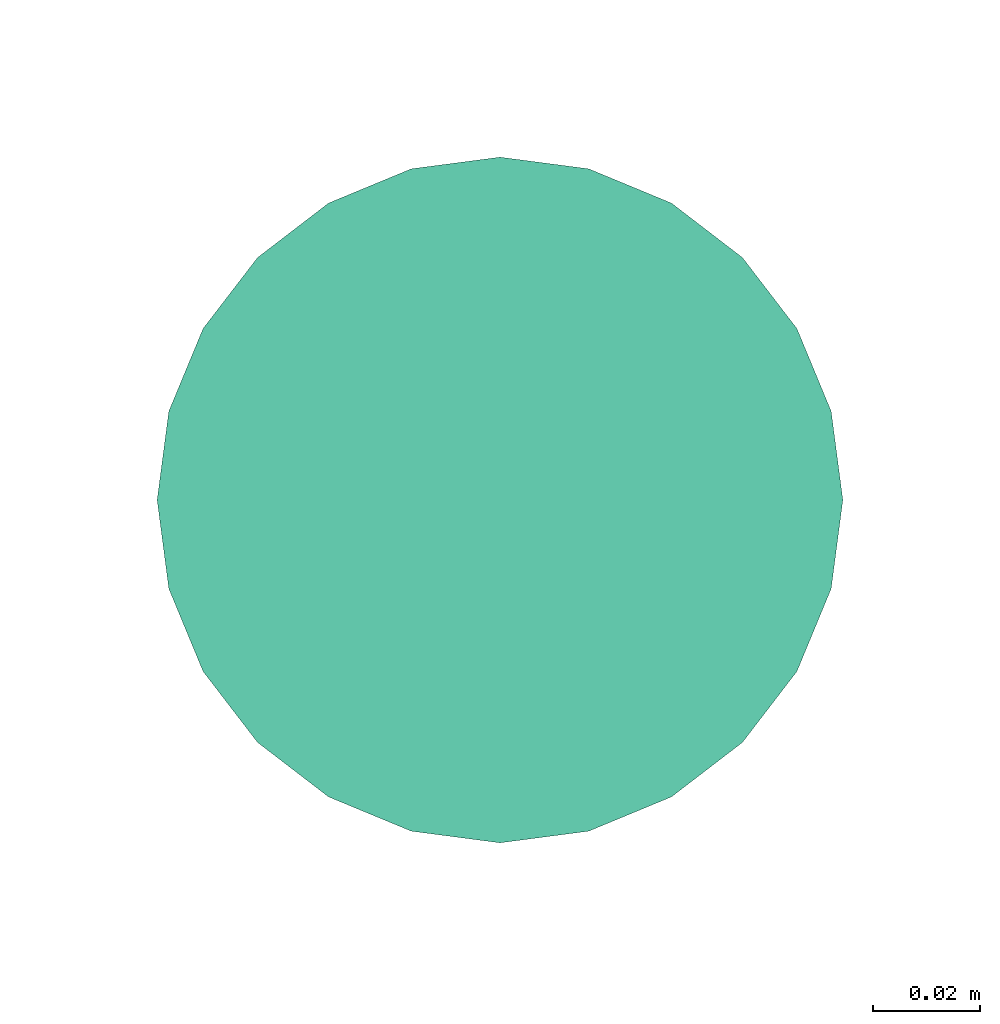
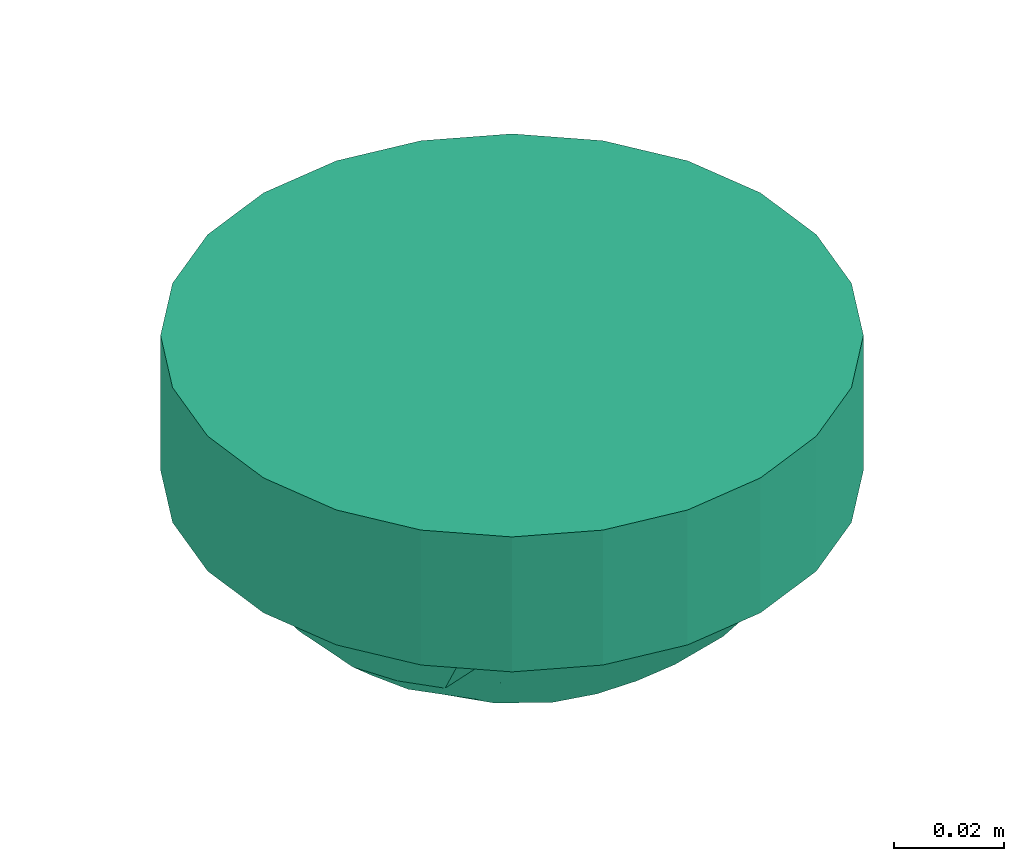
# One storey, part 77 of 153: 1 flow terminal.
"""IFC2X3 building model written with IfcOpenShell, lengths in metres."""

from ifc_helpers import new_model, entity, si_unit, converted_unit, derived_unit, direction, frame, origin, place, context, subcontext, project, spatial, faceted_brep, source, transform, mapped, type_object, type_shapes, element, save


model = new_model("IFC2X3")

# Units and contexts
model_context = context("Model", 3, precision=1e-05, world=origin(), true_north=direction((6.12303176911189e-17, 1.0)))
body_context = subcontext(model_context, "Body", "Model", "MODEL_VIEW")
ifc_project = project(units=[si_unit("LENGTHUNIT", "METRE"), si_unit("AREAUNIT", "SQUARE_METRE"), si_unit("VOLUMEUNIT", "CUBIC_METRE"), converted_unit("PLANEANGLEUNIT", "DEGREE", entity("IfcRatioMeasure", 0.0174532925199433), si_unit("PLANEANGLEUNIT", "RADIAN"), dimensions=[0, 0, 0, 0, 0, 0, 0]), si_unit("MASSUNIT", "GRAM", prefix="KILO"), derived_unit("MASSDENSITYUNIT", [(si_unit("MASSUNIT", "GRAM", prefix="KILO"), 1), (si_unit("LENGTHUNIT", "METRE"), -3)]), si_unit("TIMEUNIT", "SECOND"), si_unit("FREQUENCYUNIT", "HERTZ"), si_unit("THERMODYNAMICTEMPERATUREUNIT", "DEGREE_CELSIUS"), derived_unit("THERMALTRANSMITTANCEUNIT", [(si_unit("MASSUNIT", "GRAM", prefix="KILO"), 1), (si_unit("THERMODYNAMICTEMPERATUREUNIT", "KELVIN"), -1), (si_unit("TIMEUNIT", "SECOND"), -3)]), derived_unit("VOLUMETRICFLOWRATEUNIT", [(si_unit("LENGTHUNIT", "METRE"), 3), (si_unit("TIMEUNIT", "SECOND"), -1)]), si_unit("ELECTRICCURRENTUNIT", "AMPERE"), si_unit("ELECTRICVOLTAGEUNIT", "VOLT"), si_unit("POWERUNIT", "WATT"), si_unit("FORCEUNIT", "NEWTON"), si_unit("ILLUMINANCEUNIT", "LUX"), si_unit("LUMINOUSFLUXUNIT", "LUMEN"), si_unit("LUMINOUSINTENSITYUNIT", "CANDELA"), derived_unit("USERDEFINED", [(si_unit("MASSUNIT", "GRAM", prefix="KILO"), -1), (si_unit("LENGTHUNIT", "METRE"), -2), (si_unit("TIMEUNIT", "SECOND"), 3), (si_unit("LUMINOUSFLUXUNIT", "LUMEN"), 1)]), derived_unit("LINEARVELOCITYUNIT", [(si_unit("LENGTHUNIT", "METRE"), 1), (si_unit("TIMEUNIT", "SECOND"), -1)]), si_unit("PRESSUREUNIT", "PASCAL"), derived_unit("USERDEFINED", [(si_unit("LENGTHUNIT", "METRE"), -2), (si_unit("MASSUNIT", "GRAM", prefix="KILO"), 1), (si_unit("TIMEUNIT", "SECOND"), -2)])], contexts=[model_context])

# Site, building, storey
site_placement = place(None, origin())
site = spatial("IfcSite", under=ifc_project, at=site_placement, Name="Default", CompositionType="ELEMENT")
building_placement = place(site_placement, origin())
building = spatial("IfcBuilding", under=site, at=building_placement, CompositionType="ELEMENT")
storey_placement = place(building_placement, frame((0.0, 0.0, -4.62)))
storey = spatial("IfcBuildingStorey", under=building, at=storey_placement, Name="S02", CompositionType="ELEMENT", Elevation=-4.62)

# Flow terminal
light_fixture_type = type_object("IfcLightFixtureType", Name="Détecteur 360°", PredefinedType="NOTDEFINED")
shared_shape = source(origin(), body_context, "Body", "Brep", [
    faceted_brep([(0.0, -0.0397165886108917, 0.0531256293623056), (0.0, -0.034524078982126, 0.0563702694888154), (-0.0175153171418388, -0.0435914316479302, 0.0478512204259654), (-0.0194029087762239, -0.000878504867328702, 0.0644483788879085), (0.0, 0.0, 0.0669999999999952), (0.0, 0.00603476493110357, 0.0659648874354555), (-0.0174057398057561, -0.0159851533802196, 0.0630502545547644), (-0.0366619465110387, -0.0127227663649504, 0.0549213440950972), (-0.026998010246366, -0.0195753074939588, 0.0584711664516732), (-0.0202403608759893, -0.0335607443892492, 0.054639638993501), (-0.0359767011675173, -0.0348394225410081, 0.0444249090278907), (-0.0276843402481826, -0.0401006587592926, 0.0459804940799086), (-0.0133088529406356, -0.0517577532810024, 0.0400582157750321), (-0.0172617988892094, -0.0486391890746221, 0.042533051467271), (-0.0256912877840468, -0.0533485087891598, 0.0299999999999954), (-0.0462941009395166, -0.0369183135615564, 0.0299999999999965), (0.0, -0.0241390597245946, 0.0628595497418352), (-0.0186245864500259, -0.0267295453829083, 0.0589100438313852), (-0.0139070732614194, -0.0374370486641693, 0.0540817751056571), (0.0, 0.0449090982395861, 0.049880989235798), (-0.0172618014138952, 0.0486391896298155, 0.0425330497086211), (0.0, 0.0397165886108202, 0.0531256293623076), (-0.0186245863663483, 0.0267295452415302, 0.0589100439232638), (-0.0202403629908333, 0.0335607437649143, 0.054639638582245), (-0.0353547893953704, 0.0284533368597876, 0.0494330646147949), (0.0, 0.0120695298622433, 0.0649297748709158), (-0.0249385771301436, 0.0204731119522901, 0.0590841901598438), (-0.0191783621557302, 0.0150189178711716, 0.062775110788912), (-0.0465404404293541, -0.0196510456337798, 0.0438984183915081), (-0.052010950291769, -0.0250471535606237, 0.029999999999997), (-0.0453471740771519, -0.0286501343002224, 0.0397747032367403), (-0.0365036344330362, -0.0226255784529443, 0.0516441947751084), (-0.0175153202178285, 0.0435914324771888, 0.0478512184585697), (-0.0359926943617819, 0.0451334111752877, 0.0299999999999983), (-0.0276843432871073, 0.0401006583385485, 0.0459804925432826), (-0.00849704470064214, -0.0572729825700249, 0.0299999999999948), (0.0, -0.0592123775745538, 0.0299999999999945), (0.0, -0.0545512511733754, 0.0364787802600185), (0.0, -0.049890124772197, 0.0429575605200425), (-0.0169940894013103, -0.055333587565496, 0.0299999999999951), (-0.0359767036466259, 0.0348394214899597, 0.0444249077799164), (-0.025691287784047, 0.0533485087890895, 0.0299999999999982), (-0.0308419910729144, 0.0492409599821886, 0.0299999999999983), (-0.0130265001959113, 0.0514867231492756, 0.040526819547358), (-0.0169940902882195, 0.0553335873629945, 0.029999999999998), (0.0, 0.0498901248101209, 0.0429575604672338), (-0.0353547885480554, -0.0284533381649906, 0.0494330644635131), (0.0, 0.0181042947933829, 0.0638946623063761), (-0.0473669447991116, -0.00128092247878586, 0.0474310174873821), (-0.0485435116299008, -0.00908961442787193, 0.0452357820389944), (-0.0366597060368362, -0.0032867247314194, 0.0563153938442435), (-0.0226425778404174, -0.0107553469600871, 0.0624973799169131), (0.0, -0.00603476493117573, 0.0659648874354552), (0.0, 0.0293315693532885, 0.0596149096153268), (-0.0139070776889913, 0.0374370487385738, 0.0540817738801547), (-0.0449600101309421, 0.018422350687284, 0.0461366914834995), (-0.0453471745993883, 0.0286501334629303, 0.0397747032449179), (-0.0476906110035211, 0.00670602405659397, 0.0466053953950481), (-0.0577277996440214, 0.0131759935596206, 0.0299999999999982), (-0.0577277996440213, 0.00658799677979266, 0.029999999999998), (-0.0577277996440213, 0.0, 0.0299999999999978), (0.0, -0.0449090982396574, 0.0498809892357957), (-0.0308419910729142, -0.049240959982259, 0.0299999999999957), (-0.0359926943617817, -0.0451334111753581, 0.029999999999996), (0.0, 0.0345240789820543, 0.0563702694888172), (-0.0411433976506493, 0.0410258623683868, 0.0299999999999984), (-0.0462941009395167, 0.0369183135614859, 0.0299999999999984), (-0.0491525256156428, -0.03098273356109, 0.0299999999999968), (-0.0577277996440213, -0.0131759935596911, 0.0299999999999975), (0.0, -0.018104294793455, 0.0638946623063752), (-0.0377433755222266, 0.0044838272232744, 0.0554913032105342), (-0.0577277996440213, -0.00658799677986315, 0.0299999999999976), (-0.0385149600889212, 0.0124844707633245, 0.0536578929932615), (-0.0491525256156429, 0.0309827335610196, 0.0299999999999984), (-0.0548693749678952, 0.0191115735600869, 0.0299999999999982), (0.0, 0.0241390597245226, 0.0628595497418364), (-0.014625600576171, 0.0100436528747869, 0.0649170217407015), (-0.0271766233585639, 0.00920278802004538, 0.0609170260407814), (0.0, -0.0120695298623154, 0.0649297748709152), (-0.0520109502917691, 0.0250471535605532, 0.0299999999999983), (-0.0411433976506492, -0.0410258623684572, 0.0299999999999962), (-0.0548693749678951, -0.0191115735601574, 0.0299999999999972), (0.0, -0.0293315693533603, 0.0596149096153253), (0.0, 0.0545512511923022, 0.0364787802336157), (0.0, 0.0592123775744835, 0.0299999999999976), (-0.00849704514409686, 0.057272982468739, 0.0299999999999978), (-0.0127455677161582, 0.0563032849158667, 0.0299999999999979), (-0.0213426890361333, 0.054341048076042, 0.0299999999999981), (0.0175153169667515, 0.0435914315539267, 0.0478512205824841), (0.0194029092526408, 0.000878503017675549, 0.0644483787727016), (0.017405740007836, 0.0159851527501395, 0.0630502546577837), (0.0366619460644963, 0.012722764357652, 0.0549213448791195), (0.0269980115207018, 0.0195753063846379, 0.0584711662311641), (0.0202403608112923, 0.0335607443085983, 0.0546396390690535), (0.0359767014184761, 0.0348394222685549, 0.0444249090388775), (0.0276843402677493, 0.0401006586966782, 0.0459804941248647), (0.0133088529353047, 0.0517577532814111, 0.0400582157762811), (0.0172617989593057, 0.0486391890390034, 0.0425330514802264), (0.0256912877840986, 0.0533485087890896, 0.0299999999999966), (0.0462941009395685, 0.0369183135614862, 0.0299999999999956), (0.00849704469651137, 0.0572729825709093, 0.0299999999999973), (0.0169940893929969, 0.0553335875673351, 0.029999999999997), (0.0172617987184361, -0.0486391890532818, 0.0425330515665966), (0.025691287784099, -0.0533485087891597, 0.0299999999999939), (0.0308419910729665, -0.0492409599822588, 0.0299999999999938), (0.0175153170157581, -0.0435914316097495, 0.0478512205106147), (0.0186245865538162, -0.0267295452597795, 0.0589100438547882), (0.0202403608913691, -0.03356074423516, 0.0546396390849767), (0.0353547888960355, -0.0284533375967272, 0.0494330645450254), (0.0249385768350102, -0.0204731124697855, 0.0590841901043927), (0.0191783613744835, -0.0150189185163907, 0.062775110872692), (0.0465404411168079, 0.0196510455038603, 0.0438984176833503), (0.0577277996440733, 0.0131759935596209, 0.0299999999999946), (0.0548693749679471, 0.0191115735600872, 0.0299999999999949), (0.0520109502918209, 0.0250471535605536, 0.0299999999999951), (0.0365036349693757, 0.0226255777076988, 0.0516441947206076), (0.0186245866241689, 0.0267295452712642, 0.0589100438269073), (0.0359926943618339, -0.0451334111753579, 0.0299999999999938), (0.0276843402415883, -0.0401006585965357, 0.0459804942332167), (0.0139070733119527, 0.0374370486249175, 0.0540817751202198), (0.0359767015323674, -0.0348394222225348, 0.044424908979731), (0.0226425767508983, 0.0107553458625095, 0.0624973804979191), (0.0169940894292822, -0.0553335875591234, 0.0299999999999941), (0.0130264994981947, -0.0514867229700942, 0.0405268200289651), (0.0453471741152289, 0.0286501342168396, 0.039774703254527), (0.0353547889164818, 0.0284533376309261, 0.0494330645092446), (0.0473669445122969, 0.00128092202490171, 0.0474310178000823), (0.0485435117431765, 0.00908961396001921, 0.0452357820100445), (0.0366597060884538, 0.00328672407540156, 0.0563153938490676), (0.0139070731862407, -0.0374370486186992, 0.0540817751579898), (0.0449600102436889, -0.018422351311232, 0.0461366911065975), (0.0453471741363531, -0.0286501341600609, 0.039774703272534), (0.0476906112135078, -0.00670602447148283, 0.046605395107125), (0.0577277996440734, -0.0131759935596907, 0.0299999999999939), (0.0577277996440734, -0.00658799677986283, 0.0299999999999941), (0.0577277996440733, 0.0, 0.0299999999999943), (0.0308419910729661, 0.0492409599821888, 0.0299999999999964), (0.0359926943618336, 0.0451334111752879, 0.0299999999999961), (0.0411433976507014, -0.041025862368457, 0.0299999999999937), (0.0462941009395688, -0.0369183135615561, 0.0299999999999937), (0.0491525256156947, 0.0309827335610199, 0.0299999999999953), (0.037743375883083, -0.00448382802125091, 0.0554913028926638), (0.0577277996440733, 0.00658799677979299, 0.0299999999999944), (0.0385149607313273, -0.0124844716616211, 0.0536578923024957), (0.049152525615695, -0.0309827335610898, 0.0299999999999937), (0.0548693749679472, -0.0191115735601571, 0.0299999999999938), (0.0146256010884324, -0.0100436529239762, 0.0649170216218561), (0.0271766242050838, -0.00920278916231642, 0.0609170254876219), (0.0520109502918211, -0.0250471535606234, 0.0299999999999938), (0.041143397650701, 0.0410258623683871, 0.0299999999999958), (0.00849704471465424, -0.0572729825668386, 0.0299999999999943), (0.0127455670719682, -0.056303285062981, 0.0299999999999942), (0.0213426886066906, -0.0543410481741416, 0.029999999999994), (0.0, 0.0, 0.0299999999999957)], [[[0, 1, 2]], [[3, 4, 5]], [[6, 7, 8]], [[9, 10, 11]], [[12, 13, 14]], [[10, 15, 11]], [[9, 16, 17]], [[18, 9, 11]], [[19, 20, 21]], [[22, 23, 24]], [[25, 26, 27]], [[28, 29, 30]], [[8, 31, 17]], [[32, 33, 34]], [[35, 36, 37, 38, 39]], [[23, 40, 24]], [[20, 41, 42]], [[19, 43, 20]], [[44, 43, 45]], [[20, 32, 21]], [[30, 10, 46]], [[22, 26, 47]], [[48, 49, 50]], [[3, 51, 52]], [[53, 54, 23]], [[55, 24, 56]], [[57, 58, 59, 60]], [[13, 61, 0]], [[13, 0, 2]], [[2, 62, 13]], [[18, 2, 1]], [[2, 11, 63]], [[32, 64, 21]], [[32, 42, 33]], [[34, 33, 65, 66]], [[20, 42, 32]], [[54, 32, 34]], [[28, 30, 31]], [[10, 67, 15]], [[49, 68, 28]], [[8, 17, 69]], [[7, 6, 51]], [[28, 31, 7]], [[57, 48, 70]], [[58, 57, 55]], [[48, 71, 49]], [[70, 48, 50]], [[3, 50, 51]], [[55, 26, 24]], [[72, 57, 70]], [[26, 55, 72]], [[56, 40, 73]], [[56, 74, 55]], [[47, 75, 22]], [[52, 4, 3]], [[7, 50, 49]], [[5, 76, 3]], [[70, 3, 77]], [[51, 78, 52]], [[26, 25, 47]], [[76, 25, 27]], [[23, 22, 75]], [[26, 22, 24]], [[53, 64, 54]], [[23, 34, 40]], [[66, 40, 34]], [[40, 66, 73]], [[56, 73, 79, 74]], [[72, 27, 26]], [[40, 56, 24]], [[23, 75, 53]], [[69, 17, 16]], [[78, 6, 69]], [[46, 10, 9]], [[46, 9, 17]], [[50, 7, 51]], [[30, 29, 67]], [[80, 63, 11, 15]], [[28, 68, 81, 29]], [[10, 30, 67]], [[30, 46, 31]], [[82, 18, 1]], [[82, 16, 9]], [[28, 7, 49]], [[12, 39, 38]], [[61, 13, 12]], [[83, 84, 85, 86, 44, 45]], [[43, 41, 20]], [[44, 87, 41, 43]], [[32, 54, 64]], [[23, 54, 34]], [[9, 18, 82]], [[2, 18, 11]], [[39, 12, 14]], [[38, 61, 12]], [[62, 2, 63]], [[62, 14, 13]], [[17, 31, 46]], [[7, 31, 8]], [[48, 60, 71]], [[71, 68, 49]], [[60, 48, 57]], [[3, 70, 50]], [[72, 70, 77]], [[72, 77, 27]], [[55, 57, 72]], [[74, 58, 55]], [[76, 27, 77]], [[3, 76, 77]], [[25, 76, 5]], [[69, 6, 8]], [[78, 51, 6]], [[45, 43, 19]], [[21, 64, 88]], [[89, 4, 52]], [[90, 91, 92]], [[93, 94, 95]], [[96, 97, 98]], [[94, 99, 95]], [[100, 84, 83, 45, 101]], [[102, 103, 104]], [[102, 105, 0]], [[106, 107, 108]], [[78, 109, 110]], [[111, 112, 113, 114]], [[92, 115, 116]], [[105, 117, 118]], [[119, 93, 95]], [[107, 120, 108]], [[89, 121, 5]], [[122, 123, 38]], [[61, 123, 102]], [[93, 75, 116]], [[124, 94, 125]], [[106, 109, 69]], [[126, 127, 128]], [[61, 102, 0]], [[82, 129, 107]], [[130, 108, 131]], [[132, 133, 134, 135]], [[97, 19, 21]], [[97, 21, 88]], [[88, 136, 97]], [[119, 88, 64]], [[88, 95, 137]], [[105, 1, 0]], [[105, 104, 117]], [[118, 117, 138, 139]], [[102, 104, 105]], [[129, 105, 118]], [[111, 124, 115]], [[94, 140, 99]], [[127, 112, 111]], [[92, 116, 47]], [[91, 90, 121]], [[111, 115, 91]], [[132, 126, 141]], [[133, 132, 130]], [[126, 142, 127]], [[141, 126, 128]], [[89, 128, 121]], [[130, 109, 108]], [[143, 132, 141]], [[109, 130, 143]], [[131, 120, 144]], [[131, 145, 130]], [[69, 16, 106]], [[5, 4, 89]], [[91, 128, 127]], [[52, 146, 89]], [[141, 89, 147]], [[121, 25, 5]], [[109, 78, 69]], [[146, 78, 110]], [[107, 106, 16]], [[109, 106, 108]], [[82, 1, 129]], [[107, 118, 120]], [[139, 120, 118]], [[120, 139, 144]], [[131, 144, 148, 145]], [[143, 110, 109]], [[120, 131, 108]], [[107, 16, 82]], [[47, 116, 75]], [[25, 90, 47]], [[125, 94, 93]], [[125, 93, 116]], [[128, 91, 121]], [[124, 114, 140]], [[149, 137, 95, 99]], [[111, 114, 124]], [[94, 124, 140]], [[124, 125, 115]], [[53, 119, 64]], [[53, 75, 93]], [[111, 91, 127]], [[96, 101, 45]], [[19, 97, 96]], [[37, 36, 150, 151, 122, 38]], [[123, 103, 102]], [[122, 152, 103, 123]], [[105, 129, 1]], [[107, 129, 118]], [[93, 119, 53]], [[88, 119, 95]], [[101, 96, 98]], [[45, 19, 96]], [[136, 88, 137]], [[136, 98, 97]], [[116, 115, 125]], [[91, 115, 92]], [[126, 135, 142]], [[142, 112, 127]], [[135, 126, 132]], [[89, 141, 128]], [[143, 141, 147]], [[143, 147, 110]], [[130, 132, 143]], [[145, 133, 130]], [[146, 110, 147]], [[89, 146, 147]], [[78, 146, 52]], [[47, 90, 92]], [[25, 121, 90]], [[38, 123, 61]], [[153, 66, 65]], [[153, 65, 33]], [[153, 33, 42]], [[153, 42, 41]], [[153, 41, 87]], [[153, 73, 66]], [[153, 79, 73]], [[153, 74, 79]], [[153, 58, 74]], [[153, 87, 44]], [[153, 44, 86]], [[153, 86, 85]], [[153, 85, 84]], [[153, 84, 100]], [[153, 59, 58]], [[153, 60, 59]], [[153, 71, 60]], [[153, 68, 71]], [[153, 81, 68]], [[153, 29, 81]], [[153, 67, 29]], [[153, 15, 67]], [[153, 80, 15]], [[153, 63, 80]], [[153, 62, 63]], [[153, 14, 62]], [[153, 39, 14]], [[153, 35, 39]], [[153, 36, 35]], [[153, 100, 101]], [[153, 101, 98]], [[153, 98, 136]], [[153, 136, 137]], [[153, 137, 149]], [[153, 149, 99]], [[153, 99, 140]], [[153, 140, 114]], [[153, 114, 113]], [[153, 113, 112]], [[153, 112, 142]], [[153, 150, 36]], [[153, 151, 150]], [[153, 122, 151]], [[153, 152, 122]], [[153, 103, 152]], [[153, 104, 103]], [[153, 117, 104]], [[153, 138, 117]], [[153, 139, 138]], [[153, 144, 139]], [[153, 148, 144]], [[153, 145, 148]], [[153, 133, 145]], [[153, 142, 135]], [[153, 135, 134]], [[153, 134, 133]]]),
    faceted_brep([(0.0165644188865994, -0.0618192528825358, 0.029999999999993), (0.0320000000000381, -0.0554256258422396, 0.0299999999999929), (0.0452548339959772, -0.0452548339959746, 0.0299999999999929), (0.0554256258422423, -0.0320000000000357, 0.029999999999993), (0.0618192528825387, -0.016564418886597, 0.0299999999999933), (0.0640000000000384, 0.0, 0.0299999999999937), (0.0618192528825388, 0.016564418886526, 0.0299999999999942), (0.0554256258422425, 0.0319999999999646, 0.0299999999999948), (0.0452548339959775, 0.0452548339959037, 0.0299999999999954), (0.0320000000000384, 0.0554256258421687, 0.0299999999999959), (0.0165644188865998, 0.061819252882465, 0.0299999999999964), (0.0, 0.0639999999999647, 0.0299999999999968), (-0.0165644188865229, 0.061819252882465, 0.0299999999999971), (-0.0319999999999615, 0.0554256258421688, 0.0299999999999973), (-0.0452548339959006, 0.0452548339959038, 0.0299999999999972), (-0.0554256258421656, 0.0319999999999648, 0.0299999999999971), (-0.0618192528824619, 0.0165644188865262, 0.0299999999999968), (-0.0639999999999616, 0.0, 0.0299999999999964), (-0.061819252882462, -0.0165644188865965, 0.0299999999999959), (-0.0554256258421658, -0.0320000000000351, 0.0299999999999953), (-0.0452548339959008, -0.0452548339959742, 0.0299999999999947), (-0.0319999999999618, -0.0554256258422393, 0.0299999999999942), (-0.0165644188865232, -0.0618192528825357, 0.0299999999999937), (0.0, -0.0640000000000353, 0.0299999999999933), (0.0165644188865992, 0.0618192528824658, 0.0), (0.0320000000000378, 0.0554256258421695, 0.0), (0.0452548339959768, 0.0452548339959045, 0.0), (0.0554256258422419, 0.0319999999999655, 0.0), (0.0618192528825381, 0.0165644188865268, 0.0), (0.0640000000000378, 0.0, 0.0), (0.061819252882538, -0.0165644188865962, 0.0), (0.0554256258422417, -0.0320000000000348, 0.0), (0.0452548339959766, -0.0452548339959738, 0.0), (0.0320000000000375, -0.0554256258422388, 0.0), (0.0165644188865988, -0.061819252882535, 0.0), (0.0, -0.0640000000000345, 0.0), (-0.0165644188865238, -0.0618192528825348, 0.0), (-0.0319999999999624, -0.0554256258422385, 0.0), (-0.0452548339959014, -0.0452548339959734, 0.0), (-0.0554256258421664, -0.0320000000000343, 0.0), (-0.0618192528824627, -0.0165644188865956, 0.0), (-0.0639999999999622, 0.0, 0.0), (-0.0618192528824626, 0.016564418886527, 0.0), (-0.0554256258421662, 0.0319999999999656, 0.0), (-0.0452548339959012, 0.0452548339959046, 0.0), (-0.0319999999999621, 0.0554256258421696, 0.0), (-0.0165644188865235, 0.0618192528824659, 0.0), (0.0, 0.0639999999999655, 0.0)], [[[0, 1, 2, 3, 4, 5, 6, 7, 8, 9, 10, 11, 12, 13, 14, 15, 16, 17, 18, 19, 20, 21, 22, 23]], [[24, 25, 26, 27, 28, 29, 30, 31, 32, 33, 34, 35, 36, 37, 38, 39, 40, 41, 42, 43, 44, 45, 46, 47]], [[40, 18, 17, 41]], [[39, 19, 18, 40]], [[21, 20, 38, 37]], [[39, 38, 20, 19]], [[22, 21, 37, 36]], [[23, 22, 36, 35]], [[34, 0, 23, 35]], [[33, 1, 0, 34]], [[3, 2, 32, 31]], [[33, 32, 2, 1]], [[4, 3, 31, 30]], [[5, 4, 30, 29]], [[28, 6, 5, 29]], [[27, 7, 6, 28]], [[9, 8, 26, 25]], [[27, 26, 8, 7]], [[10, 9, 25, 24]], [[11, 10, 24, 47]], [[46, 12, 11, 47]], [[45, 13, 12, 46]], [[42, 41, 17, 16]], [[44, 14, 13, 45]], [[43, 15, 14, 44]], [[43, 42, 16, 15]]]),
])
type_shapes(light_fixture_type, [shared_shape])
flow_terminal_placement = place(storey_placement, frame((48.391792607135, -191.470041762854, 3.41), z_axis=(0.0, 0.0, -1.0), x_axis=(0.0, -1.0, 0.0)))
element("IfcFlowTerminal", 1, at=flow_terminal_placement, inside=storey, type_object=light_fixture_type, Name="INT - Détecteur 360°:Détecteur 360°", ObjectType="INT - Détecteur 360°:Détecteur 360°", context=body_context, shape_type="MappedRepresentation", body=[
    mapped(shared_shape, transform((0.0, 0.0, 0.0), scale=1.0)),
])

save(model, "model.ifc")
